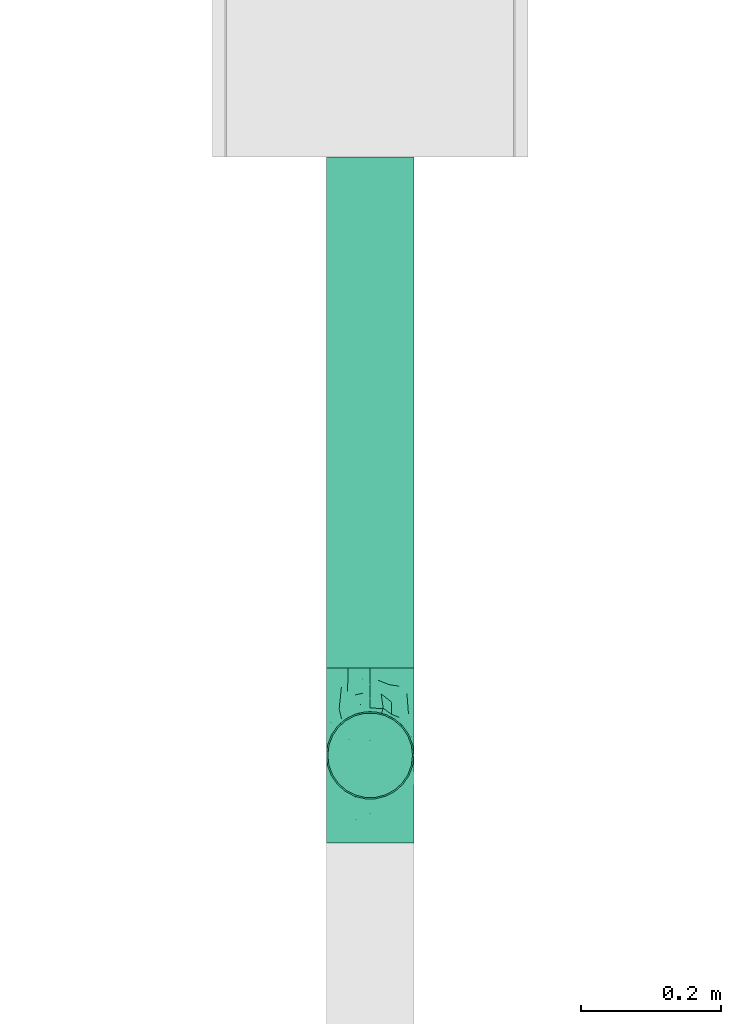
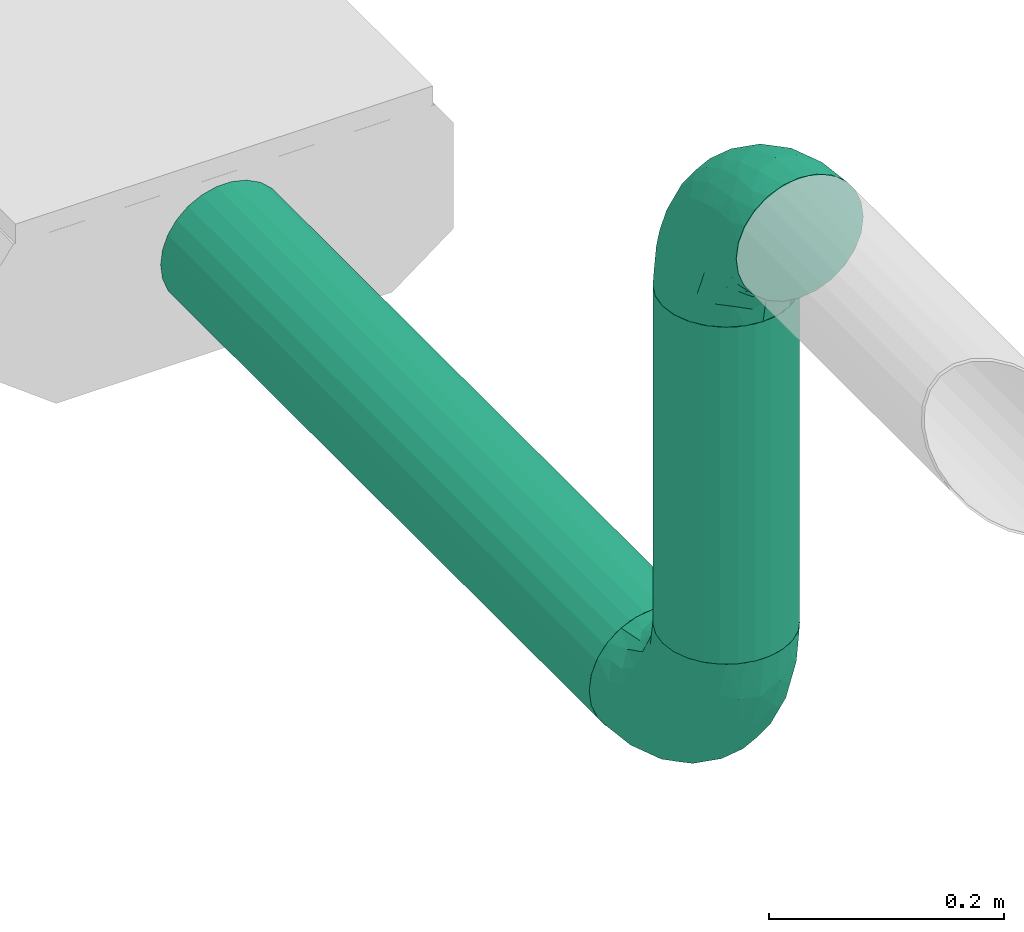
# One storey, part 26 of 36: 2 flow fittings, 2 flow segments.
"""IFC2X3 building model written with IfcOpenShell, lengths in millimetres."""

from ifc_helpers import new_model, entity, si_unit, converted_unit, derived_unit, direction, frame, origin_with_axes, origin_2d_with_axis, place, context, subcontext, project, spatial, hollow_circle, extrude, open_shell, surface_model, source, transform, mapped, type_object, element, save


model = new_model("IFC2X3")

# Units and contexts
model_context = context("Model", 3, precision=0.01, world=frame((0.0, 4.29681676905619e-09, 0.0)), true_north=direction((4.01073788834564e-13, 1.0)))
plan_context = context("Plan", 3, precision=0.01, world=frame((0.0, 4.29681676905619e-09, 0.0)), true_north=direction((4.01073788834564e-13, 1.0)))
body_context = subcontext(model_context, "Body", "Model", "MODEL_VIEW")
ifc_project = project(units=[converted_unit("PLANEANGLEUNIT", "DEGREE", entity("IfcPositiveLengthMeasure", 0.0174532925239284), si_unit("PLANEANGLEUNIT", "RADIAN"), dimensions=[0, 0, 0, 0, 0, 0, 0]), si_unit("AREAUNIT", "SQUARE_METRE"), si_unit("LENGTHUNIT", "METRE", prefix="MILLI"), si_unit("MASSUNIT", "GRAM", prefix="KILO"), si_unit("POWERUNIT", "WATT"), si_unit("PRESSUREUNIT", "PASCAL"), si_unit("FORCEUNIT", "NEWTON", prefix="KILO"), si_unit("ELECTRICCURRENTUNIT", "AMPERE"), si_unit("THERMODYNAMICTEMPERATUREUNIT", "DEGREE_CELSIUS"), si_unit("TIMEUNIT", "SECOND"), si_unit("VOLUMEUNIT", "CUBIC_METRE"), derived_unit("LINEARVELOCITYUNIT", [(si_unit("LENGTHUNIT", "METRE"), 1), (si_unit("TIMEUNIT", "SECOND"), -1)]), derived_unit("VOLUMETRICFLOWRATEUNIT", [(si_unit("VOLUMEUNIT", "CUBIC_METRE"), 1), (si_unit("TIMEUNIT", "SECOND"), -1)]), derived_unit("THERMALTRANSMITTANCEUNIT", [(si_unit("POWERUNIT", "WATT"), 1), (si_unit("THERMODYNAMICTEMPERATUREUNIT", "KELVIN"), -1), (si_unit("AREAUNIT", "SQUARE_METRE"), -1)])], contexts=[model_context, plan_context])

# Site, building, storey
site_placement = place(None, frame((0.0, -4.29681676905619e-09, 0.0), z_axis=(0.0, 0.0, 1.0), x_axis=(1.0, 0.0, 0.0)))
site = spatial("IfcSite", under=ifc_project, at=site_placement, CompositionType="ELEMENT")
building_placement = place(site_placement, frame((0.0, 4.29681676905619e-09, 0.0), z_axis=(0.0, 0.0, 1.0), x_axis=(1.0, 0.0, 0.0)))
building = spatial("IfcBuilding", under=site, at=building_placement, Name="mc-building", CompositionType="ELEMENT")
storey_placement = place(building_placement, frame((0.0, 0.0, 204000.0), z_axis=(0.0, 0.0, 1.0), x_axis=(1.0, 0.0, 0.0)))
storey = spatial("IfcBuildingStorey", under=building, at=storey_placement, Name="Nivå D", CompositionType="ELEMENT", Elevation=204000.0)

# Flow fittings
duct_fitting_type = type_object("IfcDuctFittingType", Name="magicirc_elbow_full_radius_001", PredefinedType="BEND")
shared_shape_1 = source(origin_with_axes(), body_context, "Body", "SurfaceModel", [
    surface_model("IfcShellBasedSurfaceModel", [(-125.00008, 16.17619, -60.37037), (-125.00008, 0.0, -62.5), (-125.00008, 44.19417, -44.19417), (-125.00008, 31.25, -54.12659), (-125.00008, 60.37037, -16.17619), (-125.00008, 54.12659, -31.25), (-125.00008, -16.17619, -60.37037), (-125.00008, -31.25, -54.12659), (-125.00008, -44.19417, -44.19417), (-125.00008, -54.12659, -31.25), (-125.00008, -60.37037, -16.17619), (-125.00008, -62.5, 0.0), (-125.00008, 62.5, 0.0), (-125.00008, -31.25, 54.12659), (-125.00008, 60.37037, 16.17619), (-125.00008, 54.12659, 31.25), (-125.00008, 16.17619, 60.37037), (-125.00008, 31.25, 54.12659), (-125.00008, 44.19417, 44.19417), (-125.00008, -54.12659, 31.25), (-125.00008, -44.19417, 44.19417), (-125.00008, -60.37037, 16.17619), (-125.00008, -16.17619, 60.37037), (-125.00008, 0.0, 62.5), (-16.17627, 125.00007, -60.37037), (44.1941, 125.00011, -44.19417), (-8e-05, 125.00008, -62.5), (-44.19425, 125.00006, -44.19417), (-31.25008, 125.00006, -54.12659), (-54.12667, 125.00005, -31.25), (-60.37044, 125.00004, -16.17619), (16.17611, 125.00009, -60.37037), (31.24992, 125.0001, -54.12659), (60.37028, 125.00012, -16.17619), (54.12651, 125.00012, -31.25), (62.49992, 125.00012, 0.0), (-60.37044, 125.00004, 16.17619), (-16.17627, 125.00007, 60.37037), (-44.19425, 125.00006, 44.19417), (-54.12667, 125.00005, 31.25), (-31.25008, 125.00006, 54.12659), (-8e-05, 125.00008, 62.5), (60.37028, 125.00012, 16.17619), (44.1941, 125.00011, 44.19417), (54.12651, 125.00012, 31.25), (31.24992, 125.0001, 54.12659), (16.17611, 125.00009, 60.37037), (-62.50008, 125.00004, 0.0), (-92.01499, -48.59662, 35.11543), (-82.31108, -36.10079, 46.59002), (-83.27738, -57.79898, 0.0), (21.59337, 8.09572, 0.0), (6.68949, -6.68949, 12.50062), (-8.0957, -21.59337, 0.0), (-85.18294, -54.95352, 19.72452), (-63.86869, 108.10794, 10.69753), (-72.65271, 88.16477, 13.64848), (-58.8594, 108.47701, 26.01877), (28.68801, 50.93019, 42.73586), (15.2499, 48.30382, 51.88115), (13.33609, 22.15572, 40.76355), (-28.58039, -33.18172, 16.61251), (-55.80936, -40.00167, 31.60253), (-55.92907, -46.21073, 18.75922), (-43.64685, -43.93165, 0.0), (-11.16432, 11.16432, 51.09904), (-91.91548, -23.64007, 56.2333), (-48.30381, -15.24993, 51.88115), (-62.22465, -0.56087, 60.57833), (-86.05227, 71.09174, 22.01564), (-76.29763, 73.71529, 30.99182), (-95.48006, -8.27954, 61.43109), (-21.7217, 61.46247, 62.38786), (-46.2947, 46.29467, 60.98138), (-37.21572, 27.312, 62.17805), (-96.34428, 24.51221, 59.0402), (-23.33019, 107.80842, 58.54242), (-8.56594, 93.49125, 62.34649), (-87.52036, 9.58041, 62.39347), (-90.84336, 62.14568, 32.36992), (-104.65638, 61.64741, 22.10299), (-108.6762, 63.76169, 10.43133), (-88.81048, 72.98576, 10.36438), (36.10074, 82.31111, 46.59002), (-22.15571, -13.3361, 40.76355), (-97.70221, 52.10141, 41.01675), (33.1817, 28.58041, 16.61251), (43.93162, 43.64688, 0.0), (-108.1333, 37.84893, 50.9265), (-16.31429, 41.86092, 61.36861), (-31.05503, 11.46575, 58.3624), (-6.385, 33.76706, 57.43674), (23.64002, 91.9155, 56.2333), (8.27948, 95.48006, 61.43109), (40.00164, 55.80938, 31.60253), (47.31254, 55.33616, 14.21496), (57.79892, 83.27743, 0.0), (54.95347, 85.18296, 19.72452), (48.59656, 92.01501, 35.11543), (-51.08399, 80.06206, 49.23756), (-51.34971, 100.68879, 40.68918), (-65.8815, 69.79933, 44.27158), (-67.2576, 101.08231, 0.0), (-66.75096, 56.08362, 51.93913), (-47.27429, 67.56378, 55.69769), (-80.8059, 80.80584, 0.0), (-101.08236, 67.25753, 0.0), (-27.03015, 84.68907, 59.52251), (-39.49555, 96.79791, 51.80473), (-4.68937, 4.68937, 43.22246), (2.91364, -2.91364, 27.95972), (-68.67974, 26.77169, 61.38152), (-61.329, 15.31518, 62.47333), (-66.44481, 42.4079, 57.80884), (-86.0654, 42.42608, 52.63145), (-36.40735, 64.87814, 59.87196), (0.56083, 62.22465, 60.57833), (-50.92898, -28.66756, 42.75499), (-64.50933, 88.50412, 30.85553), (-27.43127, -26.16339, 29.83955), (22.73421, 21.43216, 28.89236), (-90.73917, 40.97988, -52.27133), (-51.05948, -15.77312, -52.43613), (-54.27153, -0.77961, -59.44482), (-25.11171, -1.04584, -51.21225), (-98.94236, 7.90272, -62.29658), (-67.16149, 94.52641, -18.73918), (-96.17127, 24.53976, -59.04752), (-57.88416, 72.64105, -48.12601), (-44.50921, 76.42377, -54.27754), (-57.76287, 57.76282, -54.87721), (-107.28054, 64.03146, -11.08737), (-59.60369, -46.85881, -20.95959), (-91.17803, -55.95169, -20.37553), (-87.70535, 72.36168, -15.72738), (37.33982, 90.42129, -47.18844), (21.56935, 79.15017, -55.58604), (24.63933, 105.55623, -56.88213), (-98.81841, 51.80612, -40.89409), (-75.37661, 57.27462, -47.13743), (-29.5623, -32.616, -19.86672), (2.6311, 29.3589, -52.12213), (-22.06404, 22.06403, -59.01679), (-105.22473, -49.75349, -36.31269), (-39.22859, 98.11976, -51.7028), (-25.51308, 90.93132, -59.26694), (7.0632, 14.54732, -41.00964), (25.49528, 46.66585, -43.72165), (20.9994, 20.90791, -30.93536), (-90.42127, -37.33987, -47.18844), (-47.4047, -35.90659, -32.07933), (-105.55621, -24.6394, -56.88213), (0.77958, 54.27153, -59.44482), (12.91752, 53.35703, -54.59988), (7.88042, 92.08259, -61.35725), (-79.15015, -21.5694, -55.58604), (-92.08258, -7.88048, -61.35725), (-78.52971, -46.34868, -33.8522), (-68.20961, -28.53783, -49.07388), (46.34863, 78.52974, -33.8522), (46.85877, 59.60372, -20.95959), (35.90656, 47.40472, -32.07933), (-75.95085, 74.3101, -30.65773), (-100.92726, 60.72326, -27.00798), (2.91554, -2.91554, -27.95435), (6.68997, -6.68997, -12.49729), (32.61598, 29.56232, -19.86672), (-54.06792, 91.48682, -41.70622), (-58.74828, 101.55882, -30.19257), (-7.90279, 98.94235, -62.29658), (49.75343, 105.22475, -36.31269), (-14.77489, 68.85353, -62.48651), (-33.79554, 36.46999, -62.46452), (-36.98166, 59.25003, -60.63975), (55.95163, 91.17806, -20.37553), (-61.70772, 36.16981, -60.43635), (-23.35088, -23.1825, -30.24251), (-68.85354, 14.77484, -62.48651), (-16.6083, -10.64431, -39.25755), (-46.66583, -25.49531, -43.72165), (-69.70069, 70.7847, -40.55271)], [open_shell([[[0, 1, 2]], [[3, 0, 2]], [[4, 5, 2]], [[6, 2, 1]], [[4, 2, 6]], [[7, 8, 6]], [[8, 4, 6]], [[9, 10, 8]], [[11, 8, 10]], [[8, 11, 4]], [[11, 12, 4]], [[12, 13, 14]], [[15, 14, 16]], [[16, 17, 18]], [[15, 16, 18]], [[16, 14, 13]], [[19, 20, 21]], [[21, 20, 11]], [[22, 23, 13]], [[20, 13, 11]], [[13, 23, 16]], [[13, 12, 11]], [[24, 25, 26]], [[27, 24, 28]], [[27, 29, 30]], [[27, 30, 24]], [[25, 24, 30]], [[31, 25, 32]], [[31, 26, 25]], [[25, 33, 34]], [[33, 25, 35]], [[25, 36, 35]], [[25, 30, 36]], [[35, 36, 37]], [[38, 36, 39]], [[40, 37, 36]], [[40, 36, 38]], [[35, 37, 41]], [[42, 43, 44]], [[43, 42, 45]], [[45, 41, 46]], [[41, 45, 42]], [[35, 41, 42]], [[30, 47, 36]], [[20, 48, 49]], [[21, 11, 50]], [[51, 52, 53]], [[54, 19, 21]], [[50, 54, 21]], [[55, 56, 57]], [[19, 48, 20]], [[58, 59, 60]], [[61, 62, 63]], [[61, 63, 64]], [[20, 49, 13]], [[61, 64, 53]], [[65, 60, 59]], [[66, 67, 68]], [[56, 69, 70]], [[71, 23, 22]], [[72, 73, 74]], [[17, 16, 75]], [[66, 13, 49]], [[37, 76, 77]], [[23, 78, 16]], [[15, 79, 80]], [[81, 12, 14]], [[69, 82, 81]], [[83, 43, 45]], [[65, 67, 84]], [[18, 85, 15]], [[86, 51, 87]], [[18, 17, 88]], [[89, 90, 91]], [[83, 45, 92]], [[69, 81, 80]], [[93, 46, 41]], [[94, 86, 95]], [[96, 97, 95]], [[96, 42, 97]], [[98, 97, 44]], [[41, 37, 77]], [[63, 50, 64]], [[42, 44, 97]], [[83, 94, 98]], [[44, 43, 98]], [[99, 100, 101]], [[55, 102, 56]], [[36, 57, 39]], [[42, 96, 35]], [[48, 54, 62]], [[79, 70, 69]], [[99, 103, 104]], [[47, 102, 55]], [[23, 71, 78]], [[56, 105, 82]], [[18, 88, 85]], [[102, 105, 56]], [[92, 45, 46]], [[57, 100, 39]], [[82, 105, 106]], [[107, 108, 104]], [[109, 110, 60]], [[107, 72, 77]], [[13, 66, 22]], [[108, 107, 76]], [[76, 37, 40]], [[40, 38, 108]], [[83, 92, 59]], [[95, 86, 87]], [[111, 112, 74]], [[75, 16, 78]], [[113, 75, 111]], [[103, 85, 114]], [[80, 79, 69]], [[100, 38, 39]], [[107, 104, 115]], [[107, 115, 72]], [[93, 77, 116]], [[67, 66, 49]], [[71, 66, 68]], [[67, 117, 84]], [[67, 65, 90]], [[93, 92, 46]], [[116, 91, 59]], [[116, 59, 92]], [[109, 60, 65]], [[54, 48, 19]], [[49, 48, 62]], [[83, 98, 43]], [[97, 98, 94]], [[111, 75, 78]], [[88, 75, 114]], [[81, 82, 106]], [[56, 82, 69]], [[12, 81, 106]], [[81, 14, 80]], [[14, 15, 80]], [[79, 15, 85]], [[85, 101, 79]], [[70, 101, 118]], [[108, 99, 104]], [[113, 103, 114]], [[111, 74, 73]], [[116, 77, 72]], [[90, 74, 68]], [[72, 74, 89]], [[77, 93, 41]], [[92, 93, 116]], [[66, 71, 22]], [[78, 71, 68]], [[101, 100, 118]], [[108, 38, 100]], [[52, 61, 53]], [[119, 110, 84]], [[94, 58, 120]], [[86, 120, 52]], [[117, 67, 49]], [[61, 119, 62]], [[120, 60, 110]], [[83, 58, 94]], [[111, 78, 112]], [[113, 111, 73]], [[104, 113, 73]], [[75, 113, 114]], [[104, 103, 113]], [[85, 103, 101]], [[78, 68, 112]], [[68, 74, 112]], [[101, 70, 79]], [[56, 70, 118]], [[67, 90, 68]], [[91, 90, 65]], [[59, 91, 65]], [[89, 91, 116]], [[72, 89, 116]], [[90, 89, 74]], [[57, 56, 118]], [[47, 55, 36]], [[86, 52, 51]], [[61, 52, 110]], [[75, 88, 17]], [[85, 88, 114]], [[108, 76, 40]], [[77, 76, 107]], [[55, 57, 36]], [[100, 57, 118]], [[104, 73, 115]], [[72, 115, 73]], [[100, 99, 108]], [[103, 99, 101]], [[62, 54, 63]], [[63, 54, 50]], [[96, 95, 87]], [[94, 95, 97]], [[49, 62, 117]], [[119, 117, 62]], [[110, 119, 61]], [[117, 119, 84]], [[65, 84, 109]], [[110, 109, 84]], [[52, 120, 110]], [[94, 120, 86]], [[59, 58, 83]], [[120, 58, 60]], [[2, 121, 3]], [[122, 123, 124]], [[1, 0, 125]], [[126, 102, 47]], [[3, 127, 0]], [[128, 129, 130]], [[106, 131, 12]], [[132, 50, 133]], [[106, 134, 131]], [[135, 136, 137]], [[138, 139, 121]], [[64, 140, 53]], [[141, 124, 142]], [[121, 2, 138]], [[133, 9, 143]], [[144, 28, 145]], [[50, 11, 10]], [[146, 147, 148]], [[149, 8, 7]], [[140, 132, 150]], [[151, 149, 7]], [[141, 152, 153]], [[31, 154, 26]], [[133, 10, 9]], [[143, 9, 8]], [[155, 156, 123]], [[157, 149, 158]], [[7, 6, 151]], [[156, 6, 1]], [[159, 160, 161]], [[105, 134, 106]], [[64, 50, 132]], [[126, 162, 134]], [[138, 163, 162]], [[30, 126, 47]], [[140, 164, 165]], [[166, 87, 51]], [[167, 168, 29]], [[162, 126, 168]], [[32, 25, 135]], [[154, 31, 137]], [[24, 169, 145]], [[127, 3, 121]], [[169, 24, 26]], [[25, 34, 170]], [[28, 144, 27]], [[24, 145, 28]], [[31, 32, 137]], [[87, 166, 160]], [[165, 166, 51]], [[171, 172, 173]], [[142, 152, 141]], [[165, 51, 53]], [[156, 155, 151]], [[136, 135, 147]], [[34, 33, 174]], [[35, 96, 33]], [[175, 127, 121]], [[2, 5, 138]], [[174, 159, 170]], [[176, 140, 150]], [[171, 154, 152]], [[126, 105, 102]], [[29, 27, 167]], [[173, 145, 171]], [[131, 163, 4]], [[128, 144, 129]], [[139, 128, 130]], [[174, 160, 159]], [[170, 135, 25]], [[147, 135, 159]], [[152, 154, 136]], [[169, 154, 171]], [[153, 147, 141]], [[152, 142, 172]], [[33, 96, 174]], [[160, 96, 87]], [[155, 122, 158]], [[143, 149, 157]], [[125, 156, 1]], [[177, 172, 123]], [[177, 123, 156]], [[123, 142, 124]], [[133, 157, 132]], [[50, 10, 133]], [[126, 134, 105]], [[168, 30, 29]], [[163, 5, 4]], [[121, 139, 130]], [[175, 121, 130]], [[125, 127, 177]], [[145, 173, 129]], [[167, 27, 144]], [[147, 146, 141]], [[178, 124, 146]], [[124, 141, 146]], [[124, 179, 122]], [[162, 163, 134]], [[138, 5, 163]], [[127, 125, 0]], [[156, 125, 177]], [[154, 169, 26]], [[145, 169, 171]], [[147, 161, 148]], [[146, 164, 178]], [[176, 164, 140]], [[124, 178, 179]], [[171, 152, 172]], [[175, 130, 173]], [[123, 172, 142]], [[175, 172, 177]], [[172, 175, 173]], [[127, 175, 177]], [[162, 180, 138]], [[180, 167, 128]], [[160, 174, 96]], [[161, 160, 166]], [[161, 166, 148]], [[147, 159, 161]], [[166, 164, 148]], [[164, 146, 148]], [[150, 132, 157]], [[64, 132, 140]], [[157, 179, 150]], [[176, 179, 178]], [[180, 128, 139]], [[144, 128, 167]], [[145, 129, 144]], [[173, 130, 129]], [[138, 180, 139]], [[167, 180, 162]], [[179, 176, 150]], [[164, 176, 178]], [[140, 165, 53]], [[166, 165, 164]], [[163, 131, 134]], [[12, 131, 4]], [[135, 137, 32]], [[154, 137, 136]], [[174, 170, 34]], [[135, 170, 159]], [[156, 151, 6]], [[149, 151, 155]], [[149, 143, 8]], [[133, 143, 157]], [[162, 168, 167]], [[30, 168, 126]], [[152, 136, 153]], [[147, 153, 136]], [[158, 122, 179]], [[123, 122, 155]], [[157, 158, 179]], [[155, 158, 149]]])]),
])
flow_fitting_1_placement = place(storey_placement, frame((524818.76742, 417759.63634, 2599.99994000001), z_axis=(-1.0, 0.0, 0.0), x_axis=(0.0, -1.0, 0.0)))
element("IfcFlowFitting", 1, at=flow_fitting_1_placement, inside=storey, type_object=duct_fitting_type, Name="magicirc_elbow_full_radius_001", context=body_context, shape_type="MappedRepresentation", body=[
    mapped(shared_shape_1, transform((0.0, 0.0, 0.0), scale=1.0)),
])
shared_shape_2 = source(origin_with_axes(), body_context, "Body", "SurfaceModel", [
    surface_model("IfcShellBasedSurfaceModel", [(-125.0, 31.25, -54.12659), (-125.0, 16.17619, -60.37037), (-125.0, 44.19417, -44.19417), (-125.0, 60.37037, -16.17619), (-125.0, 54.12659, -31.25), (-125.0, -31.25, -54.12659), (-125.0, -44.19417, -44.19417), (-125.0, -16.17619, -60.37037), (-125.0, -54.12659, -31.25), (-125.0, -60.37037, -16.17619), (-125.0, -62.5, 0.0), (-125.0, -54.12659, 31.25), (-125.0, -44.19417, 44.19417), (-125.0, -60.37037, 16.17619), (-125.0, -16.17619, 60.37037), (-125.0, 0.0, 62.5), (-125.0, -31.25, 54.12659), (-125.0, 16.17619, 60.37037), (-44.19417, 125.0, -44.19417), (-16.17619, 125.0, -60.37037), (-31.25, 125.0, -54.12659), (-54.12659, 125.0, -31.25), (-60.37037, 125.0, -16.17619), (16.17619, 125.0, -60.37037), (44.19417, 125.0, -44.19417), (31.25, 125.0, -54.12659), (60.37037, 125.0, -16.17619), (54.12659, 125.0, -31.25), (62.5, 125.0, 0.0), (-44.19417, 125.0, 44.19417), (-31.25, 125.0, 54.12659), (-16.17619, 125.0, 60.37037), (60.37037, 125.0, 16.17619), (44.19417, 125.0, 44.19417), (54.12659, 125.0, 31.25), (31.25, 125.0, 54.12659), (0.0, 125.0, 62.5), (16.17619, 125.0, 60.37037), (-92.0149, -48.59662, 35.11543), (-82.31101, -36.10079, 46.59002), (-83.27732, -57.79898, 0.0), (21.5934, 8.09566, 0.0), (6.68953, -6.68953, 12.50062), (-8.09566, -21.5934, 0.0), (-85.18285, -54.95352, 19.72452), (-63.86862, 108.10791, 10.69753), (-72.65264, 88.16475, 13.64847), (-58.85933, 108.47697, 26.01876), (28.68805, 50.93011, 42.73586), (15.24994, 48.30376, 51.88115), (13.33611, 22.15566, 40.76355), (-28.58034, -33.18174, 16.61251), (-55.80927, -40.00167, 31.60254), (-55.92901, -46.21073, 18.75923), (-43.6468, -43.93166, 0.0), (-11.16429, 11.16428, 51.09905), (-91.91541, -23.64007, 56.2333), (-48.30376, -15.24994, 51.88115), (-62.2246, -0.56088, 60.57833), (-86.05221, 71.09173, 22.01563), (-76.29757, 73.71528, 30.99181), (-95.48, -8.27954, 61.43109), (-21.72166, 61.46244, 62.38786), (-46.29465, 46.29465, 60.98138), (-37.21568, 27.31198, 62.17805), (-125.0, 31.25, 54.12659), (-96.3442, 24.51222, 59.0402), (-23.33012, 107.80836, 58.54242), (-8.56588, 93.49118, 62.34649), (-87.52028, 9.58041, 62.39347), (-125.0, 54.12659, 31.25), (-90.8433, 62.14568, 32.36992), (-104.65631, 61.64741, 22.10298), (-108.67612, 63.76169, 10.43133), (-125.0, 62.5, 0.0), (-125.0, 60.37037, 16.17619), (-88.81041, 72.98575, 10.36437), (36.10079, 82.31101, 46.59002), (-22.15566, -13.33612, 40.76355), (-125.0, 44.19417, 44.19417), (-97.70214, 52.10141, 41.01675), (33.18174, 28.58034, 16.61251), (43.93166, 43.6468, 0.0), (-108.13323, 37.84893, 50.9265), (-16.31425, 41.86087, 61.36861), (-31.05498, 11.46575, 58.36241), (-6.38494, 33.76703, 57.43674), (23.64007, 91.91541, 56.2333), (8.27954, 95.48, 61.43109), (40.00167, 55.80927, 31.60254), (47.31258, 55.33607, 14.21495), (57.79898, 83.27732, 0.0), (54.95352, 85.18285, 19.72452), (48.59662, 92.0149, 35.11543), (-51.08394, 80.06201, 49.23756), (-51.34965, 100.68876, 40.68918), (-65.88145, 69.79931, 44.27158), (-67.25753, 101.08228, 0.0), (-60.37037, 125.0, 16.17619), (-54.12659, 125.0, 31.25), (-66.7509, 56.0836, 51.93913), (-47.27423, 67.56375, 55.69769), (-62.5, 125.0, 0.0), (-80.80582, 80.80582, 0.0), (-101.08228, 67.25753, 0.0), (-27.0301, 84.68903, 59.52251), (-39.49549, 96.79785, 51.80473), (-4.68934, 4.68934, 43.22247), (2.91368, -2.91368, 27.95973), (-68.67967, 26.77168, 61.38152), (-61.32894, 15.31518, 62.47333), (-66.44476, 42.40788, 57.80884), (-86.06534, 42.42608, 52.63144), (-36.4073, 64.87811, 59.87196), (0.56088, 62.2246, 60.57833), (-50.92891, -28.66756, 42.755), (-64.50927, 88.5041, 30.85553), (-27.43118, -26.16339, 29.83954), (22.73426, 21.43212, 28.89237), (-90.73911, 40.97988, -52.27133), (-51.05944, -15.77315, -52.43613), (-54.27147, -0.77962, -59.44482), (-25.11169, -1.04586, -51.21226), (-125.0, 0.0, -62.5), (-98.94229, 7.90272, -62.29658), (-67.16143, 94.52638, -18.73917), (-96.1712, 24.53976, -59.04752), (-57.8841, 72.64103, -48.12601), (-44.50916, 76.42373, -54.27754), (-57.76281, 57.76281, -54.8772), (-107.28047, 64.03146, -11.08737), (-59.60363, -46.85882, -20.9596), (-91.17795, -55.95169, -20.37554), (-87.70528, 72.36167, -15.72738), (37.33987, 90.42119, -47.18844), (21.5694, 79.15007, -55.58604), (24.6394, 105.55614, -56.88213), (-98.81833, 51.80612, -40.89409), (-75.37655, 57.2746, -47.13743), (-29.56225, -32.61603, -19.86672), (2.63114, 29.35884, -52.12213), (-22.06401, 22.064, -59.01679), (-105.22465, -49.75349, -36.31269), (-39.22852, 98.11971, -51.7028), (-25.51302, 90.93127, -59.26694), (7.06321, 14.54725, -41.00964), (25.49531, 46.66577, -43.72165), (20.99941, 20.9078, -30.93535), (-90.42119, -37.33987, -47.18844), (-47.40462, -35.90659, -32.07933), (-105.55614, -24.6394, -56.88213), (0.77962, 54.27147, -59.44482), (12.91756, 53.35696, -54.59988), (7.88048, 92.08251, -61.35725), (0.0, 125.0, -62.5), (-79.15007, -21.5694, -55.58604), (-92.08251, -7.88048, -61.35725), (-78.52964, -46.34869, -33.8522), (-68.20954, -28.53784, -49.07387), (46.34869, 78.52964, -33.8522), (46.85882, 59.60363, -20.9596), (35.90659, 47.40462, -32.07933), (-75.95077, 74.3101, -30.65772), (-100.92719, 60.72326, -27.00798), (2.91558, -2.91558, -27.95435), (6.69001, -6.69001, -12.49729), (32.61603, 29.56225, -19.86672), (-54.06785, 91.48679, -41.70621), (-58.74822, 101.55878, -30.19257), (-7.90272, 98.94229, -62.29658), (49.75349, 105.22465, -36.31269), (-14.77484, 68.85348, -62.48651), (-33.7955, 36.46996, -62.46452), (-36.98162, 59.24998, -60.63975), (55.95169, 91.17795, -20.37554), (-61.70769, 36.16979, -60.43635), (-23.35082, -23.18253, -30.24249), (-68.85348, 14.77484, -62.48651), (-16.60827, -10.64436, -39.25753), (-46.66577, -25.49531, -43.72165), (-69.70063, 70.78468, -40.55271)], [open_shell([[[0, 1, 2]], [[3, 4, 2]], [[5, 6, 7]], [[8, 9, 6]], [[10, 6, 9]], [[11, 12, 13]], [[13, 12, 10]], [[14, 15, 16]], [[16, 15, 17]], [[18, 19, 20]], [[18, 21, 22]], [[23, 24, 25]], [[24, 26, 27]], [[26, 24, 28]], [[29, 30, 31]], [[32, 33, 34]], [[35, 36, 37]], [[12, 38, 39]], [[13, 10, 40]], [[41, 42, 43]], [[44, 11, 13]], [[40, 44, 13]], [[45, 46, 47]], [[11, 38, 12]], [[48, 49, 50]], [[51, 52, 53]], [[51, 53, 54]], [[12, 39, 16]], [[51, 54, 43]], [[55, 50, 49]], [[56, 57, 58]], [[46, 59, 60]], [[61, 15, 14]], [[62, 63, 64]], [[65, 17, 66]], [[56, 16, 39]], [[31, 67, 68]], [[15, 69, 17]], [[70, 71, 72]], [[73, 74, 75]], [[59, 76, 73]], [[77, 33, 35]], [[55, 57, 78]], [[79, 80, 70]], [[81, 41, 82]], [[79, 65, 83]], [[84, 85, 86]], [[77, 35, 87]], [[59, 73, 72]], [[88, 37, 36]], [[89, 81, 90]], [[91, 92, 90]], [[91, 32, 92]], [[93, 92, 34]], [[36, 31, 68]], [[53, 40, 54]], [[32, 34, 92]], [[77, 89, 93]], [[34, 33, 93]], [[94, 95, 96]], [[45, 97, 46]], [[98, 47, 99]], [[32, 91, 28]], [[38, 44, 52]], [[71, 60, 59]], [[94, 100, 101]], [[102, 97, 45]], [[15, 61, 69]], [[46, 103, 76]], [[79, 83, 80]], [[97, 103, 46]], [[87, 35, 37]], [[47, 95, 99]], [[76, 103, 104]], [[105, 106, 101]], [[107, 108, 50]], [[105, 62, 68]], [[16, 56, 14]], [[106, 105, 67]], [[67, 31, 30]], [[30, 29, 106]], [[77, 87, 49]], [[90, 81, 82]], [[109, 110, 64]], [[66, 17, 69]], [[111, 66, 109]], [[100, 80, 112]], [[72, 71, 59]], [[95, 29, 99]], [[113, 101, 63]], [[105, 113, 62]], [[88, 68, 114]], [[57, 56, 39]], [[61, 56, 58]], [[57, 115, 78]], [[57, 55, 85]], [[88, 87, 37]], [[114, 86, 49]], [[114, 49, 87]], [[107, 50, 55]], [[44, 38, 11]], [[39, 38, 52]], [[77, 93, 33]], [[92, 93, 89]], [[109, 66, 69]], [[83, 66, 112]], [[73, 76, 104]], [[46, 76, 59]], [[74, 73, 104]], [[73, 75, 72]], [[75, 70, 72]], [[71, 70, 80]], [[80, 96, 71]], [[60, 96, 116]], [[106, 94, 101]], [[111, 100, 112]], [[109, 64, 63]], [[114, 68, 62]], [[85, 64, 58]], [[62, 64, 84]], [[68, 88, 36]], [[87, 88, 114]], [[56, 61, 14]], [[69, 61, 58]], [[96, 95, 116]], [[106, 29, 95]], [[42, 51, 43]], [[117, 108, 78]], [[89, 48, 118]], [[81, 118, 42]], [[115, 57, 39]], [[51, 117, 52]], [[118, 50, 108]], [[77, 48, 89]], [[109, 69, 110]], [[111, 109, 63]], [[101, 111, 63]], [[66, 111, 112]], [[101, 100, 111]], [[80, 100, 96]], [[69, 58, 110]], [[58, 64, 110]], [[96, 60, 71]], [[46, 60, 116]], [[57, 85, 58]], [[86, 85, 55]], [[49, 86, 55]], [[84, 86, 114]], [[62, 84, 114]], [[85, 84, 64]], [[47, 46, 116]], [[102, 45, 98]], [[81, 42, 41]], [[51, 42, 108]], [[66, 83, 65]], [[80, 83, 112]], [[106, 67, 30]], [[68, 67, 105]], [[45, 47, 98]], [[95, 47, 116]], [[62, 113, 63]], [[105, 101, 113]], [[95, 94, 106]], [[100, 94, 96]], [[52, 44, 53]], [[53, 44, 40]], [[91, 90, 82]], [[89, 90, 92]], [[39, 52, 115]], [[117, 115, 52]], [[108, 117, 51]], [[115, 117, 78]], [[55, 78, 107]], [[108, 107, 78]], [[42, 118, 108]], [[89, 118, 81]], [[49, 48, 77]], [[118, 48, 50]], [[2, 119, 0]], [[120, 121, 122]], [[123, 1, 124]], [[125, 97, 102]], [[0, 126, 1]], [[127, 128, 129]], [[104, 130, 74]], [[131, 40, 132]], [[104, 133, 130]], [[134, 135, 136]], [[137, 138, 119]], [[54, 139, 43]], [[140, 122, 141]], [[119, 2, 137]], [[132, 8, 142]], [[143, 20, 144]], [[40, 10, 9]], [[145, 146, 147]], [[148, 6, 5]], [[139, 131, 149]], [[150, 148, 5]], [[140, 151, 152]], [[23, 153, 154]], [[132, 9, 8]], [[142, 8, 6]], [[155, 156, 121]], [[157, 148, 158]], [[5, 7, 150]], [[156, 7, 123]], [[159, 160, 161]], [[103, 133, 104]], [[54, 40, 131]], [[125, 162, 133]], [[137, 163, 162]], [[22, 125, 102]], [[139, 164, 165]], [[166, 82, 41]], [[167, 168, 21]], [[162, 125, 168]], [[25, 24, 134]], [[153, 23, 136]], [[19, 169, 144]], [[126, 0, 119]], [[169, 19, 154]], [[24, 27, 170]], [[20, 143, 18]], [[19, 144, 20]], [[23, 25, 136]], [[82, 166, 160]], [[165, 166, 41]], [[171, 172, 173]], [[141, 151, 140]], [[165, 41, 43]], [[156, 155, 150]], [[135, 134, 146]], [[27, 26, 174]], [[28, 91, 26]], [[175, 126, 119]], [[2, 4, 137]], [[174, 159, 170]], [[176, 139, 149]], [[171, 153, 151]], [[125, 103, 97]], [[21, 18, 167]], [[173, 144, 171]], [[130, 163, 3]], [[127, 143, 128]], [[138, 127, 129]], [[174, 160, 159]], [[170, 134, 24]], [[146, 134, 159]], [[151, 153, 135]], [[169, 153, 171]], [[152, 146, 140]], [[151, 141, 172]], [[26, 91, 174]], [[160, 91, 82]], [[155, 120, 158]], [[142, 148, 157]], [[124, 156, 123]], [[177, 172, 121]], [[177, 121, 156]], [[121, 141, 122]], [[132, 157, 131]], [[40, 9, 132]], [[125, 133, 103]], [[168, 22, 21]], [[163, 4, 3]], [[119, 138, 129]], [[175, 119, 129]], [[124, 126, 177]], [[144, 173, 128]], [[167, 18, 143]], [[146, 145, 140]], [[178, 122, 145]], [[122, 140, 145]], [[122, 179, 120]], [[162, 163, 133]], [[137, 4, 163]], [[126, 124, 1]], [[156, 124, 177]], [[153, 169, 154]], [[144, 169, 171]], [[146, 161, 147]], [[145, 164, 178]], [[176, 164, 139]], [[122, 178, 179]], [[171, 151, 172]], [[175, 129, 173]], [[121, 172, 141]], [[175, 172, 177]], [[172, 175, 173]], [[126, 175, 177]], [[162, 180, 137]], [[180, 167, 127]], [[160, 174, 91]], [[161, 160, 166]], [[161, 166, 147]], [[146, 159, 161]], [[166, 164, 147]], [[164, 145, 147]], [[149, 131, 157]], [[54, 131, 139]], [[157, 179, 149]], [[176, 179, 178]], [[180, 127, 138]], [[143, 127, 167]], [[144, 128, 143]], [[173, 129, 128]], [[137, 180, 138]], [[167, 180, 162]], [[179, 176, 149]], [[164, 176, 178]], [[139, 165, 43]], [[166, 165, 164]], [[163, 130, 133]], [[74, 130, 3]], [[134, 136, 25]], [[153, 136, 135]], [[174, 170, 27]], [[134, 170, 159]], [[156, 150, 7]], [[148, 150, 155]], [[148, 142, 6]], [[132, 142, 157]], [[162, 168, 167]], [[22, 168, 125]], [[151, 135, 152]], [[146, 152, 135]], [[158, 120, 179]], [[121, 120, 155]], [[157, 158, 179]], [[155, 158, 148]], [[123, 6, 1]], [[6, 2, 1]], [[2, 6, 3]], [[6, 123, 7]], [[10, 12, 6]], [[75, 3, 6]], [[6, 16, 75]], [[75, 16, 70]], [[65, 70, 16]], [[79, 70, 65]], [[65, 16, 17]], [[12, 16, 6]], [[74, 3, 75]], [[19, 24, 154]], [[23, 154, 24]], [[22, 102, 98]], [[24, 19, 18]], [[33, 24, 18]], [[33, 18, 22]], [[24, 32, 28]], [[33, 22, 98]], [[29, 98, 99]], [[98, 29, 33]], [[31, 33, 29]], [[24, 33, 32]], [[36, 35, 33]], [[31, 36, 33]]])]),
])
flow_fitting_2_placement = place(storey_placement, frame((524818.76742, 417759.63634, 3199.99994000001), z_axis=(1.0, 0.0, 0.0), x_axis=(0.0, 0.0, 1.0)))
element("IfcFlowFitting", 2, at=flow_fitting_2_placement, inside=storey, type_object=duct_fitting_type, Name="magicirc_elbow_full_radius_001", context=body_context, shape_type="MappedRepresentation", body=[
    mapped(shared_shape_2, transform((0.0, 0.0, 0.0), scale=1.0)),
])

# Flow segments
duct_segment_type = type_object("IfcDuctSegmentType", Name="KK001T - Spiro kanaler, Forsinket stål", PredefinedType="RIGIDSEGMENT")
shared_shape_3 = source(origin_with_axes(), body_context, "Body", "SweptSolid", [
    extrude(hollow_circle(Radius=62.5, WallThickness=2.0, at=origin_2d_with_axis()), frame((0.0, 0.0, 0.0), z_axis=(1.0, 0.0, 0.0), x_axis=(0.0, 1.0, 0.0)), (0.0, 0.0, 1.0), 729.2),
])
flow_segment_1_placement = place(storey_placement, frame((524818.76742, 418613.82336, 2600.00026999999), z_axis=(0.0, 0.0, 1.0), x_axis=(0.0, -1.0, 0.0)))
element("IfcFlowSegment", 3, at=flow_segment_1_placement, inside=storey, type_object=duct_segment_type, Name="KK001T - Spiro kanaler, Forsinket stål", context=body_context, shape_type="MappedRepresentation", body=[
    mapped(shared_shape_3, transform((0.0, 0.0, 0.0), scale=1.0)),
])
shared_shape_4 = source(origin_with_axes(), body_context, "Body", "SweptSolid", [
    extrude(hollow_circle(Radius=62.5, WallThickness=2.0, at=origin_2d_with_axis()), frame((0.0, 0.0, 0.0), z_axis=(1.0, 0.0, 0.0), x_axis=(0.0, 1.0, 0.0)), (0.0, 0.0, 1.0), 350.0),
])
flow_segment_2_placement = place(storey_placement, frame((524818.76742, 417759.63634, 2725.00002000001), z_axis=(0.0, -1.0, 0.0), x_axis=(0.0, 0.0, 1.0)))
element("IfcFlowSegment", 4, at=flow_segment_2_placement, inside=storey, type_object=duct_segment_type, Name="KK001T - Spiro kanaler, Forsinket stål", context=body_context, shape_type="MappedRepresentation", body=[
    mapped(shared_shape_4, transform((0.0, 0.0, 0.0), scale=1.0)),
])

save(model, "model.ifc")
